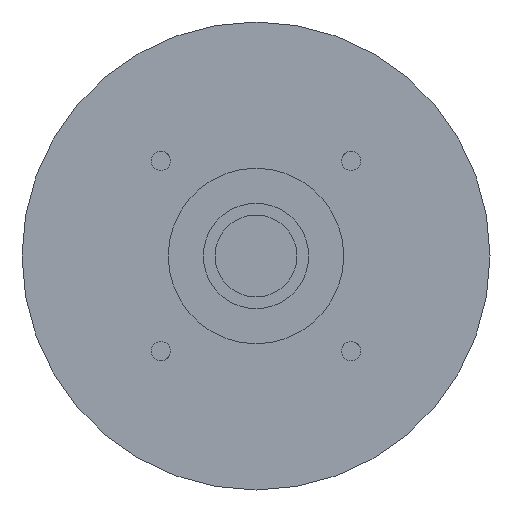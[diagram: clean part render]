
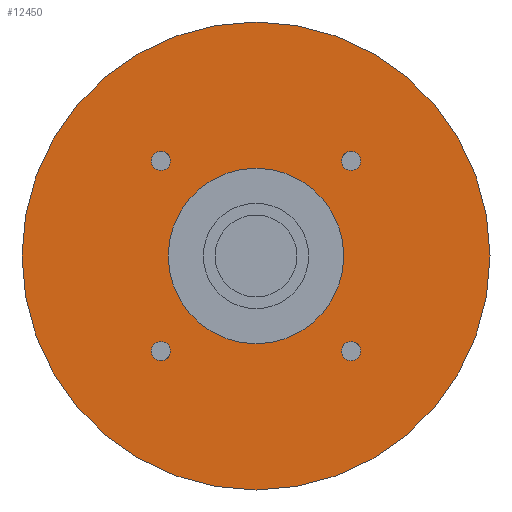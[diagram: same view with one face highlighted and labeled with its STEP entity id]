
A CAD part, left-side view. The second image highlights one B-rep face of the part: STEP entity #12450.
In plain terms, the highlighted planar face has unit normal (-1, 0, 0) as drawn and (0, 0, -1) by its records, which use the part's own axes.
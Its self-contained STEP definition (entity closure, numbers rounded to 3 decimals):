
#8680=CARTESIAN_POINT('',(14.613,-16.263,-42.2));
#8690=VERTEX_POINT('',#8680);
#8720=CARTESIAN_POINT('',(16.263,-16.263,-42.2));
#8730=DIRECTION('',(0.,0.,-1.));
#8740=DIRECTION('',(1.,0.,0.));
#8750=AXIS2_PLACEMENT_3D('',#8720,#8730,#8740);
#8760=CIRCLE('',#8750,1.65);
#8770=CARTESIAN_POINT('',(17.913,-16.263,-42.2));
#8780=VERTEX_POINT('',#8770);
#8790=EDGE_CURVE('',#8780,#8690,#8760,.T.);
#9010=CARTESIAN_POINT('',(-14.613,-16.263,-42.2));
#9020=VERTEX_POINT('',#9010);
#9070=CARTESIAN_POINT('',(-16.263,-16.263,-42.2));
#9080=DIRECTION('',(0.,0.,-1.));
#9090=DIRECTION('',(1.,0.,0.));
#9100=AXIS2_PLACEMENT_3D('',#9070,#9080,#9090);
#9110=CIRCLE('',#9100,1.65);
#9120=CARTESIAN_POINT('',(-17.913,-16.263,-42.2));
#9130=VERTEX_POINT('',#9120);
#9140=EDGE_CURVE('',#9130,#9020,#9110,.T.);
#11570=CARTESIAN_POINT('',(-40.,0.,-42.2));
#11580=VERTEX_POINT('',#11570);
#11660=CARTESIAN_POINT('',(40.,0.,-42.2));
#11670=VERTEX_POINT('',#11660);
#11700=CARTESIAN_POINT('',(0.,0.,
-42.2));
#11710=DIRECTION('',(0.,0.,1.));
#11720=DIRECTION('',(1.,0.,0.));
#11730=AXIS2_PLACEMENT_3D('',#11700,#11710,#11720);
#11740=CIRCLE('',#11730,40.);
#11750=EDGE_CURVE('',#11580,#11670,#11740,.T.);
#11800=CARTESIAN_POINT('',(0.,0.,
-42.2));
#11810=DIRECTION('',(0.,0.,-1.));
#11820=DIRECTION('',(1.,0.,0.));
#11830=AXIS2_PLACEMENT_3D('',#11800,#11810,#11820);
#11840=PLANE('',#11830);
#11850=CARTESIAN_POINT('',(-16.263,16.263,-42.2));
#11860=DIRECTION('',(0.,0.,-1.));
#11870=DIRECTION('',(1.,0.,0.));
#11880=AXIS2_PLACEMENT_3D('',#11850,#11860,#11870);
#11890=CIRCLE('',#11880,1.65);
#11900=CARTESIAN_POINT('',(-14.613,16.263,-42.2));
#11910=VERTEX_POINT('',#11900);
#11920=CARTESIAN_POINT('',(-17.913,16.263,-42.2));
#11930=VERTEX_POINT('',#11920);
#11940=EDGE_CURVE('',#11910,#11930,#11890,.T.);
#11950=ORIENTED_EDGE('',*,*,#11940,.F.);
#11960=EDGE_CURVE('',#11930,#11910,#11890,.T.);
#11970=ORIENTED_EDGE('',*,*,#11960,.F.);
#11980=EDGE_LOOP('',(#11970,#11950));
#11990=FACE_BOUND('',#11980,.T.);
#12000=CARTESIAN_POINT('',(0.,0.,
-42.2));
#12010=DIRECTION('',(0.,0.,1.));
#12020=DIRECTION('',(1.,0.,0.));
#12030=AXIS2_PLACEMENT_3D('',#12000,#12010,#12020);
#12040=CIRCLE('',#12030,15.);
#12050=CARTESIAN_POINT('',(15.,0.,-42.2));
#12060=VERTEX_POINT('',#12050);
#12070=CARTESIAN_POINT('',(-15.,0.,-42.2));
#12080=VERTEX_POINT('',#12070);
#12090=EDGE_CURVE('',#12060,#12080,#12040,.T.);
#12100=ORIENTED_EDGE('',*,*,#12090,.T.);
#12110=EDGE_CURVE('',#12080,#12060,#12040,.T.);
#12120=ORIENTED_EDGE('',*,*,#12110,.T.);
#12130=EDGE_LOOP('',(#12120,#12100));
#12140=FACE_BOUND('',#12130,.T.);
#12150=CARTESIAN_POINT('',(16.263,16.263,-42.2));
#12160=DIRECTION('',(0.,0.,-1.));
#12170=DIRECTION('',(1.,0.,0.));
#12180=AXIS2_PLACEMENT_3D('',#12150,#12160,#12170);
#12190=CIRCLE('',#12180,1.65);
#12200=CARTESIAN_POINT('',(17.913,16.263,-42.2));
#12210=VERTEX_POINT('',#12200);
#12220=CARTESIAN_POINT('',(14.613,16.263,-42.2));
#12230=VERTEX_POINT('',#12220);
#12240=EDGE_CURVE('',#12210,#12230,#12190,.T.);
#12250=ORIENTED_EDGE('',*,*,#12240,.F.);
#12260=EDGE_CURVE('',#12230,#12210,#12190,.T.);
#12270=ORIENTED_EDGE('',*,*,#12260,.F.);
#12280=EDGE_LOOP('',(#12270,#12250));
#12290=FACE_BOUND('',#12280,.T.);
#12300=ORIENTED_EDGE('',*,*,#8790,.F.);
#12310=EDGE_CURVE('',#8690,#8780,#8760,.T.);
#12320=ORIENTED_EDGE('',*,*,#12310,.F.);
#12330=EDGE_LOOP('',(#12320,#12300));
#12340=FACE_BOUND('',#12330,.T.);
#12350=EDGE_CURVE('',#9020,#9130,#9110,.T.);
#12360=ORIENTED_EDGE('',*,*,#12350,.F.);
#12370=ORIENTED_EDGE('',*,*,#9140,.F.);
#12380=EDGE_LOOP('',(#12370,#12360));
#12390=FACE_BOUND('',#12380,.T.);
#12400=EDGE_CURVE('',#11670,#11580,#11740,.T.);
#12410=ORIENTED_EDGE('',*,*,#12400,.F.);
#12420=ORIENTED_EDGE('',*,*,#11750,.F.);
#12430=EDGE_LOOP('',(#12420,#12410));
#12440=FACE_OUTER_BOUND('',#12430,.T.);
#12450=ADVANCED_FACE('',(#11990,#12140,#12290,#12340,#12390,#12440),
#11840,.T.);
